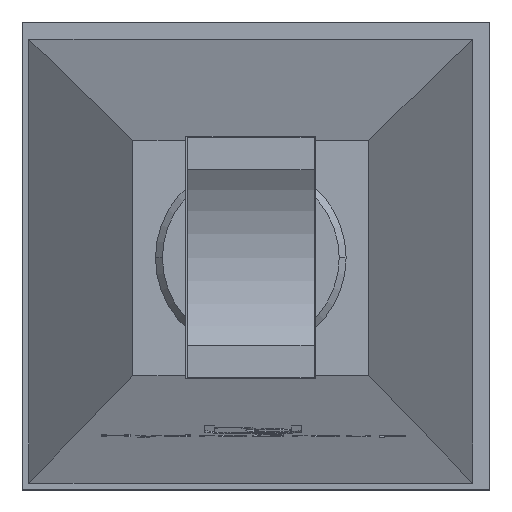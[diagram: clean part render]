
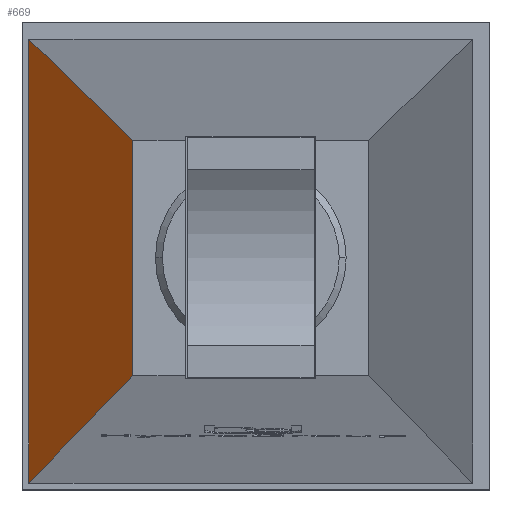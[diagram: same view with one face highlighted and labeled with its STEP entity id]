
A CAD part, top view. The second image highlights one B-rep face of the part: STEP entity #669.
In plain terms, the highlighted planar face has unit normal (-0.999, 0, 0.055).
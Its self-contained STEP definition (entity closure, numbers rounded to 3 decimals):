
#669=ADVANCED_FACE('',(#1360),#1361,.F.);
#1360=FACE_OUTER_BOUND('',#2112,.T.);
#1361=PLANE('',#2113);
#2112=EDGE_LOOP('',(#4134,#4135,#4136,#4137));
#2113=AXIS2_PLACEMENT_3D('',#4138,#4139,#4140);
#4134=ORIENTED_EDGE('',*,*,#5071,.F.);
#4135=ORIENTED_EDGE('',*,*,#4829,.F.);
#4136=ORIENTED_EDGE('',*,*,#5094,.F.);
#4137=ORIENTED_EDGE('',*,*,#5105,.T.);
#4138=CARTESIAN_POINT('',(322.833,359.89,445.791));
#4139=DIRECTION('',(0.998,0.,-0.055));
#4140=DIRECTION('',(0.,-1.0,0.));
#4829=EDGE_CURVE('',#5829,#5825,#5831,.T.);
#5071=EDGE_CURVE('',#5825,#6149,#6150,.F.);
#5094=EDGE_CURVE('',#6180,#5829,#6182,.T.);
#5105=EDGE_CURVE('',#6180,#6149,#6195,.T.);
#5825=VERTEX_POINT('',#7540);
#5829=VERTEX_POINT('',#7546);
#5831=LINE('',#7549,#7550);
#6149=VERTEX_POINT('',#8127);
#6150=LINE('',#8128,#8129);
#6180=VERTEX_POINT('',#8173);
#6182=LINE('',#8176,#8177);
#6195=LINE('',#8195,#8196);
#7540=CARTESIAN_POINT('',(262.823,296.885,-636.375));
#7546=CARTESIAN_POINT('',(322.823,356.885,445.625));
#7549=CARTESIAN_POINT('',(323.04,357.102,449.539));
#7550=VECTOR('',#8735,1.);
#8127=CARTESIAN_POINT('',(262.823,552.894,-636.375));
#8128=CARTESIAN_POINT('',(262.823,392.39,-636.375));
#8129=VECTOR('',#8907,1.0);
#8173=CARTESIAN_POINT('',(322.823,492.894,445.625));
#8176=CARTESIAN_POINT('',(322.823,392.39,445.625));
#8177=VECTOR('',#8923,1.0);
#8195=CARTESIAN_POINT('',(323.04,492.677,449.539));
#8196=VECTOR('',#8929,1.);
#8735=DIRECTION('',(-0.055,-0.055,-0.997));
#8907=DIRECTION('',(0.,-1.0,0.));
#8923=DIRECTION('',(0.,-1.0,0.));
#8929=DIRECTION('',(-0.055,0.055,-0.997));
